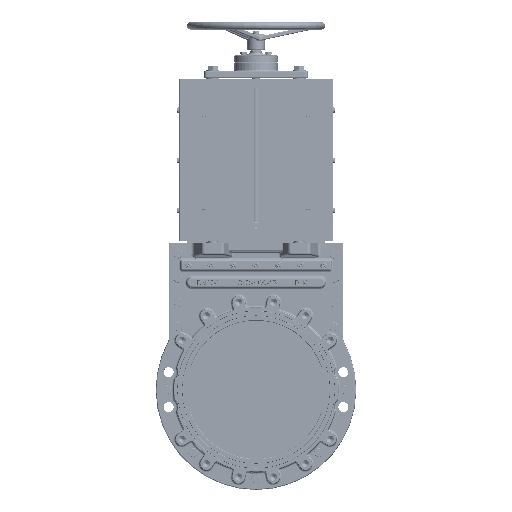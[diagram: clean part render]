
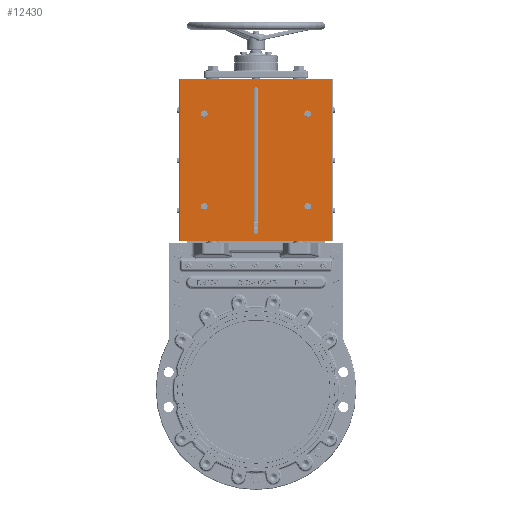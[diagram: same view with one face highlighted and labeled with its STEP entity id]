
A CAD part, top view. The second image highlights one B-rep face of the part: STEP entity #12430.
In plain terms, the highlighted planar face has unit normal (0, 0, 1).
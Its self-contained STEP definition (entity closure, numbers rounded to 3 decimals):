
#6131=PLANE('',#61795);
#12430=ADVANCED_FACE('',(#19889,#19890,#19891,#19892,#19893,#19894),#6131,
 .F.);
#15808=LINE('',#128889,#18133);
#15810=LINE('',#128900,#18135);
#15813=LINE('',#128914,#18138);
#15814=LINE('',#128916,#18139);
#15832=LINE('',#128964,#18157);
#15833=LINE('',#128966,#18158);
#18133=VECTOR('',#73744,1.);
#18135=VECTOR('',#73754,1.);
#18138=VECTOR('',#73771,1.);
#18139=VECTOR('',#73774,1.);
#18157=VECTOR('',#73826,1.);
#18158=VECTOR('',#73829,1.);
#19889=FACE_BOUND('',#24775,.T.);
#19890=FACE_BOUND('',#24776,.T.);
#19891=FACE_BOUND('',#24777,.T.);
#19892=FACE_BOUND('',#24778,.T.);
#19893=FACE_BOUND('',#24779,.T.);
#19894=FACE_BOUND('',#24780,.T.);
#24775=EDGE_LOOP('',(#39741));
#24776=EDGE_LOOP('',(#39742));
#24777=EDGE_LOOP('',(#39743,#39744,#39745,#39746));
#24778=EDGE_LOOP('',(#39747,#39748,#39749,#39750));
#24779=EDGE_LOOP('',(#39751));
#24780=EDGE_LOOP('',(#39752));
#39741=ORIENTED_EDGE('',*,*,#53934,.F.);
#39742=ORIENTED_EDGE('',*,*,#53935,.F.);
#39743=ORIENTED_EDGE('',*,*,#53919,.F.);
#39744=ORIENTED_EDGE('',*,*,#53885,.T.);
#39745=ORIENTED_EDGE('',*,*,#53918,.T.);
#39746=ORIENTED_EDGE('',*,*,#53880,.T.);
#39747=ORIENTED_EDGE('',*,*,#53865,.T.);
#39748=ORIENTED_EDGE('',*,*,#53893,.T.);
#39749=ORIENTED_EDGE('',*,*,#53863,.T.);
#39750=ORIENTED_EDGE('',*,*,#53892,.F.);
#39751=ORIENTED_EDGE('',*,*,#53933,.T.);
#39752=ORIENTED_EDGE('',*,*,#53936,.T.);
#46187=VERTEX_POINT('',#128846);
#46188=VERTEX_POINT('',#128848);
#46189=VERTEX_POINT('',#128852);
#46190=VERTEX_POINT('',#128854);
#46203=VERTEX_POINT('',#128888);
#46204=VERTEX_POINT('',#128890);
#46206=VERTEX_POINT('',#128895);
#46208=VERTEX_POINT('',#128899);
#46233=VERTEX_POINT('',#128998);
#46234=VERTEX_POINT('',#129001);
#46235=VERTEX_POINT('',#129003);
#46236=VERTEX_POINT('',#129005);
#53863=EDGE_CURVE('',#46187,#46188,#56836,.T.);
#53865=EDGE_CURVE('',#46190,#46189,#56837,.T.);
#53880=EDGE_CURVE('',#46204,#46203,#15808,.T.);
#53885=EDGE_CURVE('',#46206,#46208,#15810,.T.);
#53892=EDGE_CURVE('',#46190,#46188,#15813,.T.);
#53893=EDGE_CURVE('',#46189,#46187,#15814,.T.);
#53918=EDGE_CURVE('',#46208,#46204,#15832,.T.);
#53919=EDGE_CURVE('',#46206,#46203,#15833,.T.);
#53933=EDGE_CURVE('',#46233,#46233,#56868,.T.);
#53934=EDGE_CURVE('',#46234,#46234,#56869,.T.);
#53935=EDGE_CURVE('',#46235,#46235,#56870,.T.);
#53936=EDGE_CURVE('',#46236,#46236,#56871,.T.);
#56836=CIRCLE('',#61724,5.);
#56837=CIRCLE('',#61726,5.);
#56868=CIRCLE('',#61790,10.);
#56869=CIRCLE('',#61792,10.);
#56870=CIRCLE('',#61793,10.);
#56871=CIRCLE('',#61794,10.);
#61724=AXIS2_PLACEMENT_3D('',#128849,#73696,#73697);
#61726=AXIS2_PLACEMENT_3D('',#128853,#73701,#73702);
#61790=AXIS2_PLACEMENT_3D('',#128997,#73866,#73867);
#61792=AXIS2_PLACEMENT_3D('',#129000,#73870,#73871);
#61793=AXIS2_PLACEMENT_3D('',#129002,#73872,#73873);
#61794=AXIS2_PLACEMENT_3D('',#129004,#73874,#73875);
#61795=AXIS2_PLACEMENT_3D('',#129006,#73876,#73877);
#73696=DIRECTION('',(0.,0.,-1.));
#73697=DIRECTION('',(-1.,0.,0.));
#73701=DIRECTION('',(0.,0.,-1.));
#73702=DIRECTION('',(-1.,0.,0.));
#73744=DIRECTION('',(0.,1.,0.));
#73754=DIRECTION('',(0.,-1.,0.));
#73771=DIRECTION('',(0.,-1.,0.));
#73774=DIRECTION('',(0.,-1.,0.));
#73826=DIRECTION('',(1.,0.,0.));
#73829=DIRECTION('',(1.,0.,0.));
#73866=DIRECTION('',(0.,0.,-1.));
#73867=DIRECTION('',(-1.,0.,0.));
#73870=DIRECTION('',(0.,0.,1.));
#73871=DIRECTION('',(1.,0.,0.));
#73872=DIRECTION('',(0.,0.,1.));
#73873=DIRECTION('',(1.,0.,0.));
#73874=DIRECTION('',(0.,0.,-1.));
#73875=DIRECTION('',(-1.,0.,0.));
#73876=DIRECTION('',(0.,0.,-1.));
#73877=DIRECTION('',(-1.,0.,0.));
#128846=CARTESIAN_POINT('',(6.,458.781,100.792));
#128848=CARTESIAN_POINT('',(-4.,458.781,100.792));
#128849=CARTESIAN_POINT('',(1.,458.781,100.792));
#128852=CARTESIAN_POINT('',(6.,873.781,100.792));
#128853=CARTESIAN_POINT('',(1.,873.781,100.792));
#128854=CARTESIAN_POINT('',(-4.,873.781,100.792));
#128888=CARTESIAN_POINT('',(219.5,900.281,100.792));
#128889=CARTESIAN_POINT('',(219.5,900.281,100.792));
#128890=CARTESIAN_POINT('',(219.5,432.281,100.792));
#128895=CARTESIAN_POINT('',(-217.5,900.281,100.792));
#128899=CARTESIAN_POINT('',(-217.5,432.281,100.792));
#128900=CARTESIAN_POINT('',(-217.5,492.281,100.792));
#128914=CARTESIAN_POINT('',(-4.,900.281,100.792));
#128916=CARTESIAN_POINT('',(6.,900.281,100.792));
#128964=CARTESIAN_POINT('',(-196.5,432.281,100.792));
#128966=CARTESIAN_POINT('',(-196.5,900.281,100.792));
#128997=CARTESIAN_POINT('',(-149.,532.281,100.792));
#128998=CARTESIAN_POINT('',(-159.,532.281,100.792));
#129000=CARTESIAN_POINT('',(151.,800.281,100.792));
#129001=CARTESIAN_POINT('',(161.,800.281,100.792));
#129002=CARTESIAN_POINT('',(151.,532.281,100.792));
#129003=CARTESIAN_POINT('',(161.,532.281,100.792));
#129004=CARTESIAN_POINT('',(-149.,800.281,100.792));
#129005=CARTESIAN_POINT('',(-159.,800.281,100.792));
#129006=CARTESIAN_POINT('',(-196.5,900.281,100.792));
